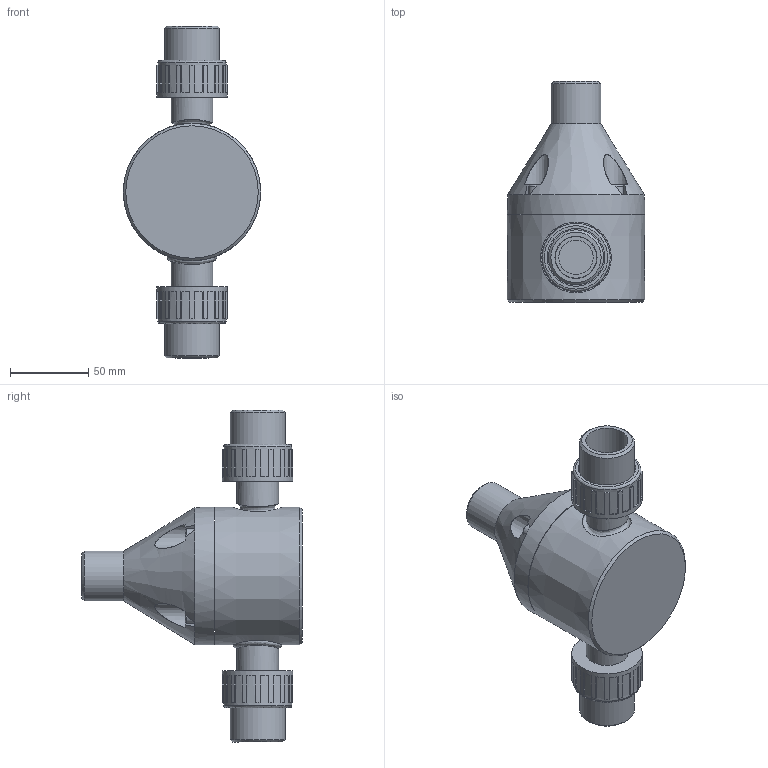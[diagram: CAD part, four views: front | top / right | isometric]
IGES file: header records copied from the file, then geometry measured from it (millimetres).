
Start section: SolidWorks IGES file using analytic representation for surfaces
Global section: file name: F:\Griffco-Valve\Griffco_current-projects\GV_web-files_2015\G Series Union\GBP0750-UNION.IGS; native system: SolidWorks 2014; preprocessor: SolidWorks 2014; author: Dan; date: 160901.035742; units: inch
Bounding box: 87.63 x 140.97 x 211.84 mm (x, y, z)
Surface area: 75801.2 mm2 (no closed solid volume)
Topology: 0 solids, 0 shells, 259 faces, 1284 edges, 1243 vertices
Faces by surface type: bspline 215, revolution 44
